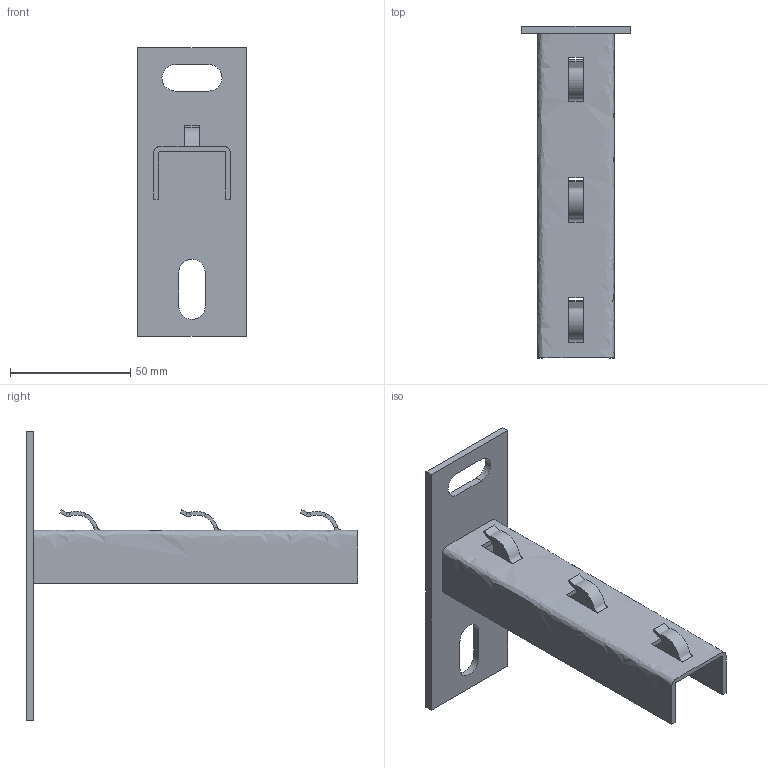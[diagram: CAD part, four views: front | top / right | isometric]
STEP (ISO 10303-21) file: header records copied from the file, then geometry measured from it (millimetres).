
FILE_DESCRIPTION(/* description */ (''),/* implementation_level */ '2;1');
FILE_NAME(/* name */ 'NPZM100',/* time_stamp */ '2013-11-22T10:23:02+01:00',/* author */ (''),/* organization */ (''),/* preprocessor_version */ 'ST-DEVELOPER v10',/* originating_system */ '',/* authorisation */ '');
FILE_SCHEMA (('AUTOMOTIVE_DESIGN_CC2'));
Length unit declared in the file: millimetre
Products named in the file (1): 1
Bounding box: 45 x 138 x 120 mm (x, y, z)
Volume: 32411.2 mm3; surface area: 31830.9 mm2
Topology: 5 solids, 5 shells, 70 faces, 192 edges, 132 vertices
Faces by surface type: bspline 60, plane 10
Entity records: 3419 total; most frequent: CARTESIAN_POINT 2283, ORIENTED_EDGE 360, EDGE_CURVE 180, VERTEX_POINT 120, B_SPLINE_CURVE_WITH_KNOTS 90, EDGE_LOOP 80, ADVANCED_FACE 70, FACE_OUTER_BOUND 70
